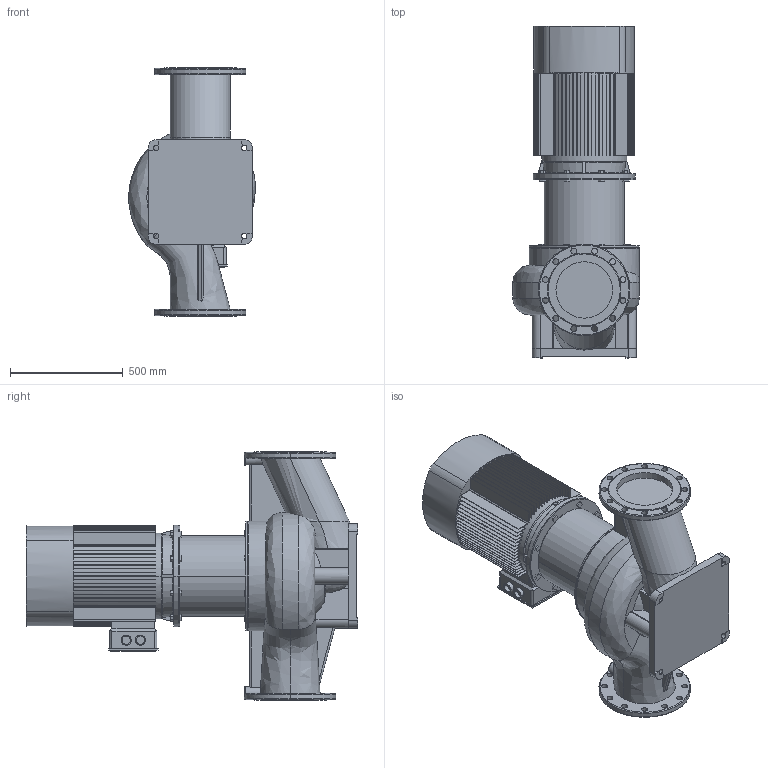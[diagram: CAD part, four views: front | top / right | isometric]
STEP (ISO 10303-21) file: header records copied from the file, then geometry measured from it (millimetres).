
FILE_DESCRIPTION (( 'STEP AP203' ), '1' );
FILE_NAME ('TD250-14_4.STEP', '2022-05-02T18:07:42', ( '' ), ( '' ), 'SwSTEP 2.0', 'SolidWorks 2019', '' );
FILE_SCHEMA (( 'CONFIG_CONTROL_DESIGN' ));
Length unit declared in the file: millimetre
Products named in the file (4): Pr_ch 250_TD250-14_4; ED_B5_YE2-225S-4 (37); TD250-14_4; Fon_250_TD250-14_4
Assembly tree (3 placements, depth 2):
  TD250-14_4
    Pr_ch 250_TD250-14_4
    Fon_250_TD250-14_4
    ED_B5_YE2-225S-4 (37)
Bounding box: 560.98 x 1469 x 1100 mm (x, y, z)
Volume: 219670969.1 mm3; surface area: 6885517.5 mm2
Topology: 5 solids, 7 shells, 821 faces, 2271 edges, 1506 vertices
Faces by surface type: plane 558, cylinder 191, torus 34, bspline 21, cone 17
Entity records: 35678 total; most frequent: CARTESIAN_POINT 13785, ORIENTED_EDGE 4542, DIRECTION 4463, EDGE_CURVE 2271, AXIS2_PLACEMENT_3D 1535, VERTEX_POINT 1506, LINE 1393, VECTOR 1393
